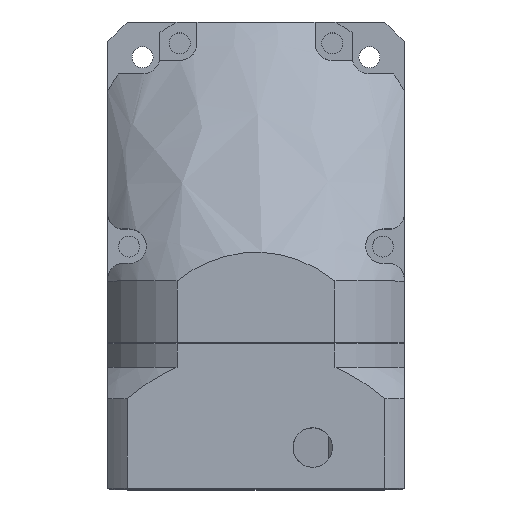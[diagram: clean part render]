
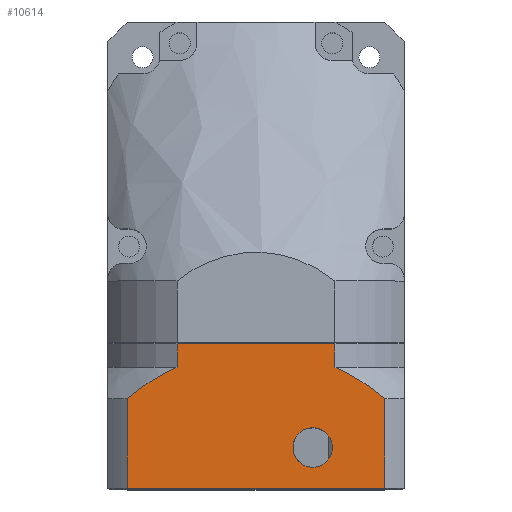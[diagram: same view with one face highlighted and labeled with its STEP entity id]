
A CAD part, top view. The second image highlights one B-rep face of the part: STEP entity #10614.
In plain terms, the highlighted planar face has unit normal (0, 0, 1).
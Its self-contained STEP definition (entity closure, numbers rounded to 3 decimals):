
#269 = CARTESIAN_POINT ( 'NONE',  ( 0., -60., 60. ) ) ;
#320 = AXIS2_PLACEMENT_3D ( 'NONE', #8307, #2443, #9306 ) ;
#323 = DIRECTION ( 'NONE',  ( 1., 0., 0. ) ) ;
#489 = VECTOR ( 'NONE', #323, 1000. ) ;
#526 = DIRECTION ( 'NONE',  ( 1., 0., 0. ) ) ;
#556 = VERTEX_POINT ( 'NONE', #4364 ) ;
#640 = VERTEX_POINT ( 'NONE', #9349 ) ;
#679 = CARTESIAN_POINT ( 'NONE',  ( 0., 52.156, 60. ) ) ;
#751 = CIRCLE ( 'NONE', #320, 8. ) ;
#825 = DIRECTION ( 'NONE',  ( 1., 0., 0. ) ) ;
#867 = CARTESIAN_POINT ( 'NONE',  ( 0.5, -32., 60. ) ) ;
#1667 = DIRECTION ( 'NONE',  ( -1., 0., 0. ) ) ;
#1728 = CARTESIAN_POINT ( 'NONE',  ( 34.5, 23., 60. ) ) ;
#1766 = ORIENTED_EDGE ( 'NONE', *, *, #4736, .T. ) ;
#1789 = CARTESIAN_POINT ( 'NONE',  ( 59., 52.156, 60. ) ) ;
#1873 = CARTESIAN_POINT ( 'NONE',  ( 0., 32., 60. ) ) ;
#1947 = EDGE_CURVE ( 'NONE', #6062, #640, #3510, .T. ) ;
#2376 = EDGE_LOOP ( 'NONE', ( #1766, #6679, #11828, #10095, #12409, #9689, #6315, #4374 ) ) ;
#2443 = DIRECTION ( 'NONE',  ( 0., 0., 1. ) ) ;
#2542 = CARTESIAN_POINT ( 'NONE',  ( 0., -32., 60. ) ) ;
#2556 = VECTOR ( 'NONE', #8715, 1000. ) ;
#2761 = VECTOR ( 'NONE', #12371, 1000. ) ;
#2794 = VECTOR ( 'NONE', #1667, 1000. ) ;
#2937 = CARTESIAN_POINT ( 'NONE',  ( 59., 52.156, 60. ) ) ;
#3013 = VERTEX_POINT ( 'NONE', #12310 ) ;
#3244 = VERTEX_POINT ( 'NONE', #3737 ) ;
#3277 = EDGE_CURVE ( 'NONE', #10277, #556, #12372, .T. ) ;
#3289 = DIRECTION ( 'NONE',  ( 1., 0., 0. ) ) ;
#3346 = AXIS2_PLACEMENT_3D ( 'NONE', #269, #9151, #3289 ) ;
#3510 = CIRCLE ( 'NONE', #8945, 80. ) ;
#3558 = CARTESIAN_POINT ( 'NONE',  ( 0.5, -32., 60. ) ) ;
#3597 = VERTEX_POINT ( 'NONE', #11255 ) ;
#3737 = CARTESIAN_POINT ( 'NONE',  ( 22.66, -52.156, 60. ) ) ;
#4184 = LINE ( 'NONE', #12312, #9079 ) ;
#4224 = AXIS2_PLACEMENT_3D ( 'NONE', #4811, #11676, #5787 ) ;
#4364 = CARTESIAN_POINT ( 'NONE',  ( 50.5, 23., 60. ) ) ;
#4374 = ORIENTED_EDGE ( 'NONE', *, *, #8407, .T. ) ;
#4736 = EDGE_CURVE ( 'NONE', #3244, #5057, #4184, .T. ) ;
#4803 = DIRECTION ( 'NONE',  ( 0., 0., 1. ) ) ;
#4811 = CARTESIAN_POINT ( 'NONE',  ( 42.5, 23., 60. ) ) ;
#4904 = EDGE_CURVE ( 'NONE', #5057, #9825, #9236, .T. ) ;
#5057 = VERTEX_POINT ( 'NONE', #9997 ) ;
#5477 = CIRCLE ( 'NONE', #7355, 80. ) ;
#5571 = ORIENTED_EDGE ( 'NONE', *, *, #12238, .F. ) ;
#5577 = FACE_BOUND ( 'NONE', #7595, .T. ) ;
#5787 = DIRECTION ( 'NONE',  ( 1., 0., 0. ) ) ;
#6062 = VERTEX_POINT ( 'NONE', #8983 ) ;
#6315 = ORIENTED_EDGE ( 'NONE', *, *, #11282, .T. ) ;
#6332 = VECTOR ( 'NONE', #9571, 1000. ) ;
#6679 = ORIENTED_EDGE ( 'NONE', *, *, #4904, .T. ) ;
#6724 = DIRECTION ( 'NONE',  ( 0., 0., 1. ) ) ;
#7355 = AXIS2_PLACEMENT_3D ( 'NONE', #10676, #4803, #11667 ) ;
#7595 = EDGE_LOOP ( 'NONE', ( #5571, #8271 ) ) ;
#7967 = LINE ( 'NONE', #3558, #2761 ) ;
#8158 = PLANE ( 'NONE',  #3346 ) ;
#8271 = ORIENTED_EDGE ( 'NONE', *, *, #3277, .F. ) ;
#8307 = CARTESIAN_POINT ( 'NONE',  ( 42.5, 23., 60. ) ) ;
#8313 = LINE ( 'NONE', #2542, #489 ) ;
#8407 = EDGE_CURVE ( 'NONE', #3013, #3244, #5477, .T. ) ;
#8415 = EDGE_CURVE ( 'NONE', #640, #3597, #10067, .T. ) ;
#8416 = VERTEX_POINT ( 'NONE', #867 ) ;
#8715 = DIRECTION ( 'NONE',  ( -1., 0., 0. ) ) ;
#8945 = AXIS2_PLACEMENT_3D ( 'NONE', #12616, #6724, #825 ) ;
#8983 = CARTESIAN_POINT ( 'NONE',  ( 22.66, 52.156, 60. ) ) ;
#9079 = VECTOR ( 'NONE', #526, 1000. ) ;
#9151 = DIRECTION ( 'NONE',  ( 0., 0., 1. ) ) ;
#9236 = LINE ( 'NONE', #1789, #6332 ) ;
#9306 = DIRECTION ( 'NONE',  ( 1., 0., 0. ) ) ;
#9349 = CARTESIAN_POINT ( 'NONE',  ( 10., 32., 60. ) ) ;
#9571 = DIRECTION ( 'NONE',  ( 0., 1., 0. ) ) ;
#9689 = ORIENTED_EDGE ( 'NONE', *, *, #12333, .T. ) ;
#9825 = VERTEX_POINT ( 'NONE', #2937 ) ;
#9997 = CARTESIAN_POINT ( 'NONE',  ( 59., -52.156, 60. ) ) ;
#10067 = LINE ( 'NONE', #1873, #2556 ) ;
#10095 = ORIENTED_EDGE ( 'NONE', *, *, #1947, .T. ) ;
#10277 = VERTEX_POINT ( 'NONE', #1728 ) ;
#10491 = FACE_OUTER_BOUND ( 'NONE', #2376, .T. ) ;
#10614 = ADVANCED_FACE ( 'NONE', ( #5577, #10491 ), #8158, .T. ) ;
#10631 = LINE ( 'NONE', #679, #2794 ) ;
#10676 = CARTESIAN_POINT ( 'NONE',  ( 83.321, 0., 60. ) ) ;
#10832 = EDGE_CURVE ( 'NONE', #9825, #6062, #10631, .T. ) ;
#11255 = CARTESIAN_POINT ( 'NONE',  ( 0.5, 32., 60. ) ) ;
#11282 = EDGE_CURVE ( 'NONE', #8416, #3013, #8313, .T. ) ;
#11667 = DIRECTION ( 'NONE',  ( 1., 0., 0. ) ) ;
#11676 = DIRECTION ( 'NONE',  ( 0., 0., 1. ) ) ;
#11828 = ORIENTED_EDGE ( 'NONE', *, *, #10832, .T. ) ;
#12238 = EDGE_CURVE ( 'NONE', #556, #10277, #751, .T. ) ;
#12310 = CARTESIAN_POINT ( 'NONE',  ( 10., -32., 60. ) ) ;
#12312 = CARTESIAN_POINT ( 'NONE',  ( 0., -52.156, 60. ) ) ;
#12333 = EDGE_CURVE ( 'NONE', #3597, #8416, #7967, .T. ) ;
#12371 = DIRECTION ( 'NONE',  ( 0., -1., 0. ) ) ;
#12372 = CIRCLE ( 'NONE', #4224, 8. ) ;
#12409 = ORIENTED_EDGE ( 'NONE', *, *, #8415, .T. ) ;
#12616 = CARTESIAN_POINT ( 'NONE',  ( 83.321, 0., 60. ) ) ;
